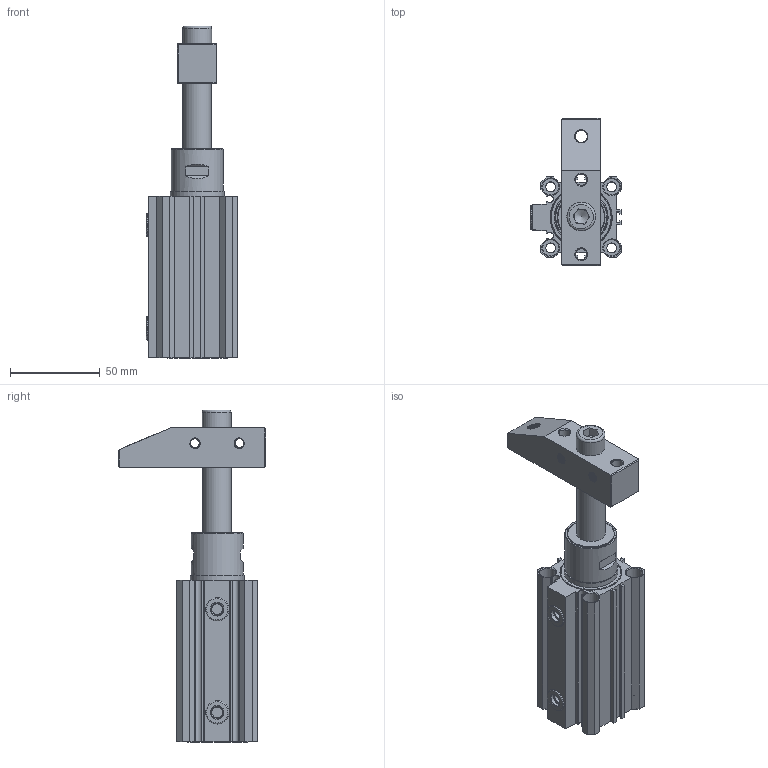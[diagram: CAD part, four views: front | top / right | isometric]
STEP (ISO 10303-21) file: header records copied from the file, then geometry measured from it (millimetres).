
FILE_DESCRIPTION(/* description */ ('STEP AP203'),/* implementation_level */ '2;1');
FILE_NAME(/* name */ 'E:\SERWER_ZAPAS\MODELE brakujace\PNEUMATIC\PB(STEP)\PBL3感应式转角缸三维图\PBL-32L_OTWARTY.stp',/* time_stamp */ '2019-02-01T13:38:09+01:00',/* author */ ('Admin'),/* organization */ ('Î¢ÈíÖÐ¹ú'),/* preprocessor_version */ 'ST-DEVELOPER v17.2',/* originating_system */ 'Autodesk Inventor 2019',/* authorisation */ '');
FILE_SCHEMA (('AUTOMOTIVE_DESIGN { 1 0 10303 214 3 1 1 }'));
Products named in the file (11): PBL-32L_OTWARTY; Áã¼þ533; µæÆ¬1; ºó22; ±¾; Parallel pins Unhardening Steel GB_GB_CONNECTING_PIECE_PIN_PPUS 4X30; s¸Ë22; »îÈû¸Ë23; 1-8¶ÂÍ·0023; Ñ¹±Û; Hexagon socket head cap screws GB_GB_FASTENER_SCREWS_HSHCS M10X30-S
Assembly tree (11 placements, depth 2):
  PBL-32L_OTWARTY
    Áã¼þ533
    µæÆ¬1
    ºó22
    1-8¶ÂÍ·0023  x2
    ±¾
    Parallel pins Unhardening Steel GB_GB_CONNECTING_PIECE_PIN_PPUS 4X30
    s¸Ë22
    »îÈû¸Ë23
    Ñ¹±Û
    Hexagon socket head cap screws GB_GB_FASTENER_SCREWS_HSHCS M10X30-S
Bounding box: 50.8 x 82 x 185 mm (x, y, z)
Volume: 169920.9 mm3; surface area: 86831.1 mm2
Topology: 11 solids, 11 shells, 634 faces, 1833 edges, 1260 vertices
Faces by surface type: cylinder 222, plane 204, cone 110, torus 50, bspline 48
Full cylindrical faces by diameter (mm): 2 x3, 3 x2, 4 x4, 5 x52, 5.5 x4, 6 x2, 6.2 x2, 6.8 x15, 7 x2, 8.2 x18, 8.5 x1, 8.7 x2, 9 x8, 10 x30, 10.5 x1, 11.624 x1, 12 x4, 13 x2, 16 x4, 16.1 x2, 18 x1, 20.3 x1, 21 x1, 24 x3, 26 x2, 28 x1, 29 x3, 30 x1, 32 x9, 33.5 x9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
Entity records: 56009 total; most frequent: CARTESIAN_POINT 39316, ORIENTED_EDGE 3588, DIRECTION 3313, EDGE_CURVE 1794, AXIS2_PLACEMENT_3D 1326, VERTEX_POINT 1234, CIRCLE 715, EDGE_LOOP 700
